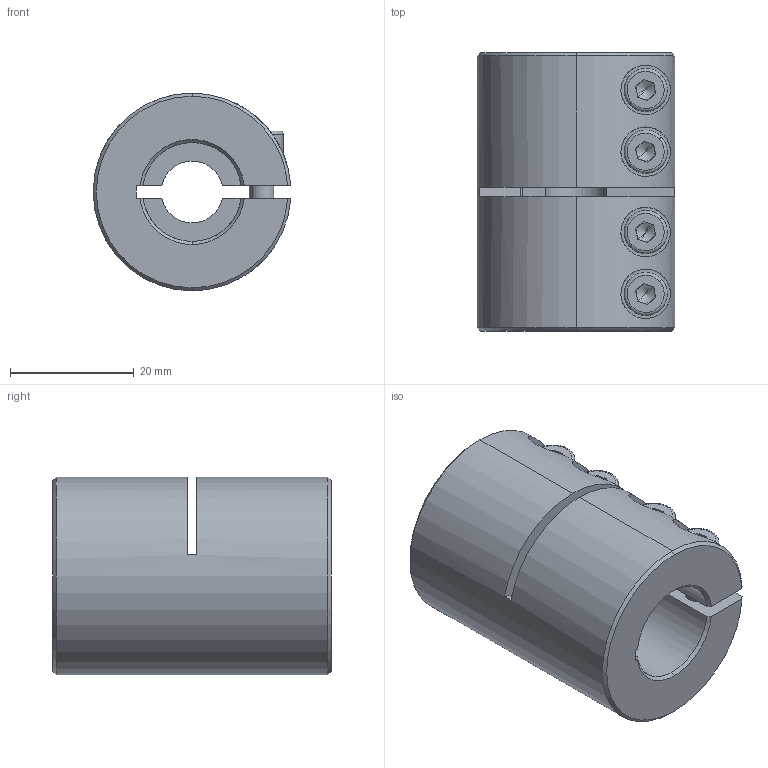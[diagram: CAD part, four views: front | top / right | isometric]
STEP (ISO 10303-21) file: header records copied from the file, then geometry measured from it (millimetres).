
FILE_DESCRIPTION (( 'STEP AP214' ), '1' );
FILE_NAME ('LL-B-D32L45-10-16½¨Ä£.STEP', '2022-07-21T07:08:58', ( '' ), ( '' ), 'SwSTEP 2.0', 'SolidWorks 2022', '' );
FILE_SCHEMA (( 'AUTOMOTIVE_DESIGN' ));
Length unit declared in the file: millimetre
Products named in the file (1): LL-B-D32L45-10-16膘耀
Bounding box: 31.97 x 45 x 32 mm (x, y, z)
Volume: 27855.5 mm3; surface area: 10877.3 mm2
Topology: 1 solids, 1 shells, 193 faces, 492 edges, 309 vertices
Faces by surface type: plane 88, cylinder 77, cone 20, torus 8
Entity records: 6357 total; most frequent: CARTESIAN_POINT 1583, DIRECTION 1037, ORIENTED_EDGE 968, EDGE_CURVE 484, AXIS2_PLACEMENT_3D 403, VERTEX_POINT 309, LINE 231, VECTOR 231
